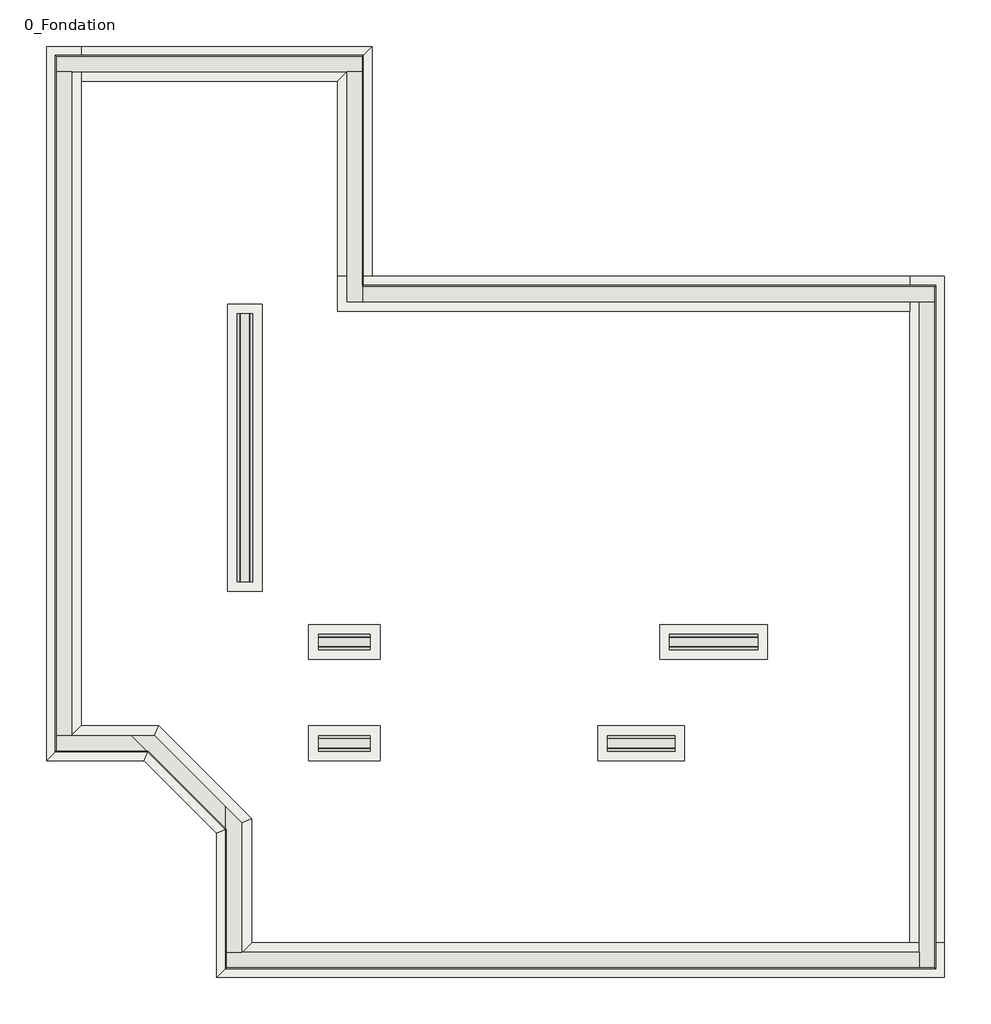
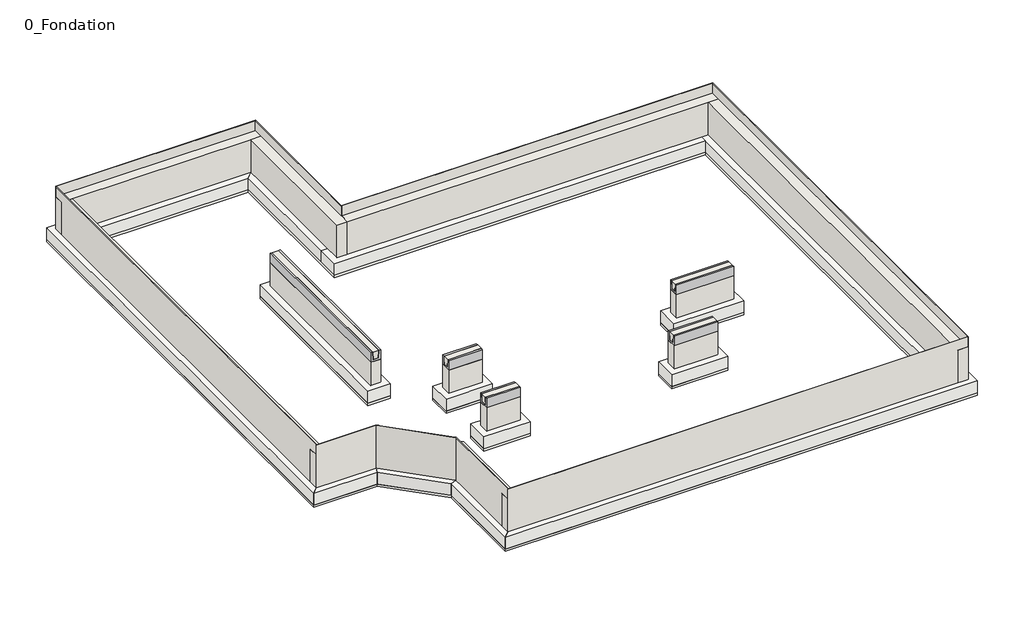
# One storey: 14 footings, 14 walls, 5 proxies, 1 slab.
"""IFC4 building model written with IfcOpenShell, lengths in millimetres."""

from ifc_helpers import new_model, si_unit, frame, origin, place, context, project, spatial, polyline, outline, extrude, faceted_brep, element, save

model = new_model("IFC4")

# Units and contexts
model_context = context("Model", 3, world=origin())
ifc_project = project(units=[si_unit("LENGTHUNIT", "METRE", prefix="MILLI")], contexts=[model_context])

# Site, building, storey
site = spatial("IfcSite", under=ifc_project)
building = spatial("IfcBuilding", under=site)
storey = spatial("IfcBuildingStorey", under=building, Name="0_Fondation", Elevation=-980.0)

# Proxies
placement = place(None, origin())
element("IfcBuildingElementProxy", 1, Name="Wall Sweeps", at=placement, inside=storey, context=model_context, shape_type="SweptSolid", body=[
    extrude(outline(polyline([(2719.9231713, -490.0), (2519.9231713, -490.0), (2519.9231713, -290.0), (2559.9231713, -290.0), (2569.9231713, -450.0), (2669.9231713, -450.0), (2679.9231713, -290.0), (2719.9231713, -290.0), (2719.9231713, -490.0)])), frame((-9951.7726031, 0.0, 0.0), z_axis=(1.0, 0.0, 0.0), x_axis=(0.0, 1.0, 0.0)), (0.0, 0.0, 1.0), 1140.0),
])
element("IfcBuildingElementProxy", 2, Name="Wall Sweeps", at=placement, inside=storey, context=model_context, shape_type="SweptSolid", body=[
    extrude(outline(polyline([(1409.9231713, -490.0), (1209.9231713, -490.0), (1209.9231713, -290.0), (1249.9231713, -290.0), (1259.9231713, -450.0), (1359.9231713, -450.0), (1369.9231713, -290.0), (1409.9231713, -290.0), (1409.9231713, -490.0)])), frame((-10751.7726031, 0.0, 0.0), z_axis=(1.0, 0.0, 0.0), x_axis=(0.0, 1.0, 0.0)), (0.0, 0.0, 1.0), 870.0),
])
element("IfcBuildingElementProxy", 3, Name="Wall Sweeps", at=placement, inside=storey, context=model_context, shape_type="SweptSolid", body=[
    extrude(outline(polyline([(1409.9231713, -490.0), (1209.9231713, -490.0), (1209.9231713, -290.0), (1249.9231713, -290.0), (1259.9231713, -450.0), (1359.9231713, -450.0), (1369.9231713, -290.0), (1409.9231713, -290.0), (1409.9231713, -490.0)])), frame((-14491.7726031, 0.0, 0.0), z_axis=(1.0, 0.0, 0.0), x_axis=(0.0, 1.0, 0.0)), (0.0, 0.0, 1.0), 670.0),
])
element("IfcBuildingElementProxy", 4, Name="Wall Sweeps", at=placement, inside=storey, context=model_context, shape_type="SweptSolid", body=[
    extrude(outline(polyline([(2719.9231713, -490.0), (2519.9231713, -490.0), (2519.9231713, -290.0), (2559.9231713, -290.0), (2569.9231713, -450.0), (2669.9231713, -450.0), (2679.9231713, -290.0), (2719.9231713, -290.0), (2719.9231713, -490.0)])), frame((-14491.7726031, 0.0, 0.0), z_axis=(1.0, 0.0, 0.0), x_axis=(0.0, 1.0, 0.0)), (0.0, 0.0, 1.0), 670.0),
])
element("IfcBuildingElementProxy", 5, Name="Wall Sweeps", at=placement, inside=storey, context=model_context, shape_type="SweptSolid", body=[
    extrude(outline(polyline([(-490.0, -15541.7726031), (-490.0, -15341.7726031), (-290.0, -15341.7726031), (-290.0, -15381.7726031), (-450.0, -15391.7726031), (-450.0, -15491.7726031), (-290.0, -15501.7726031), (-290.0, -15541.7726031), (-490.0, -15541.7726031)])), frame((0.0, 3399.9231713, 0.0), z_axis=(0.0, 1.0, 0.0), x_axis=(0.0, 0.0, 1.0)), (0.0, 0.0, 1.0), 3460.0),
])

# Footings
element("IfcFooting", 6, ObjectType="Semelle 45 x 25 refend", at=placement, inside=storey, context=model_context, shape_type="SweptSolid", body=[
    extrude(outline(polyline([(-13696.7726031, 2844.9231713), (-13696.7726031, 2394.9231713), (-14616.7726031, 2394.9231713), (-14616.7726031, 2844.9231713), (-13696.7726031, 2844.9231713)])), frame((0.0, 0.0, -1230.0), z_axis=(0.0, 0.0, 1.0), x_axis=(1.0, 0.0, 0.0)), (0.0, 0.0, 1.0), 250.0),
])
element("IfcFooting", 7, ObjectType="Semelle 45 x 25 refend", at=placement, inside=storey, context=model_context, shape_type="SweptSolid", body=[
    extrude(outline(polyline([(-13696.7726031, 1534.9231713), (-13696.7726031, 1084.9231713), (-14616.7726031, 1084.9231713), (-14616.7726031, 1534.9231713), (-13696.7726031, 1534.9231713)])), frame((0.0, 0.0, -1230.0), z_axis=(0.0, 0.0, 1.0), x_axis=(1.0, 0.0, 0.0)), (0.0, 0.0, 1.0), 250.0),
])
element("IfcFooting", 8, ObjectType="Semelle 45 x 25 refend", at=placement, inside=storey, context=model_context, shape_type="SweptSolid", body=[
    extrude(outline(polyline([(-9756.7726031, 1534.9231713), (-9756.7726031, 1084.9231713), (-10876.7726031, 1084.9231713), (-10876.7726031, 1534.9231713), (-9756.7726031, 1534.9231713)])), frame((0.0, 0.0, -1230.0), z_axis=(0.0, 0.0, 1.0), x_axis=(1.0, 0.0, 0.0)), (0.0, 0.0, 1.0), 250.0),
])
element("IfcFooting", 9, ObjectType="Semelle 45 x 25 refend", at=placement, inside=storey, context=model_context, shape_type="SweptSolid", body=[
    extrude(outline(polyline([(-8686.7726031, 2844.9231713), (-8686.7726031, 2394.9231713), (-10076.7726031, 2394.9231713), (-10076.7726031, 2844.9231713), (-8686.7726031, 2844.9231713)])), frame((0.0, 0.0, -1230.0), z_axis=(0.0, 0.0, 1.0), x_axis=(1.0, 0.0, 0.0)), (0.0, 0.0, 1.0), 250.0),
])
element("IfcFooting", 10, ObjectType="Semelle 45 x 25 refend", at=placement, inside=storey, context=model_context, shape_type="SweptSolid", body=[
    extrude(outline(polyline([(-15666.7726031, 6984.9231713), (-15216.7726031, 6984.9231713), (-15216.7726031, 3274.9231713), (-15666.7726031, 3274.9231713), (-15666.7726031, 6984.9231713)])), frame((0.0, 0.0, -1230.0), z_axis=(0.0, 0.0, 1.0), x_axis=(1.0, 0.0, 0.0)), (0.0, 0.0, 1.0), 250.0),
])
element("IfcFooting", 11, ObjectType="Semelle 45 x 25", at=placement, inside=storey, context=model_context, shape_type="Brep", body=[
    faceted_brep([(-6396.7726031, -1265.0768287, -980.0), (-6846.7726031, -1265.0768287, -980.0), (-15356.7726031, -1265.0768287, -980.0), (-15806.7726031, -1715.0768287, -980.0), (-6396.7726031, -1715.0768287, -980.0), (-6396.7726031, -1715.0768287, -1230.0), (-15806.7726031, -1715.0768287, -1230.0), (-6396.7726031, -1265.0768287, -1230.0), (-15356.7726031, -1265.0768287, -1230.0), (-6846.7726031, -1265.0768287, -1230.0)], [[[0, 1, 2, 3, 4]], [[5, 4, 3, 6]], [[7, 5, 6, 8, 9]], [[0, 7, 9, 8, 2, 1]], [[0, 4, 5, 7]], [[3, 2, 8, 6]]]),
])
element("IfcFooting", 12, ObjectType="Semelle 45 x 25", at=placement, inside=storey, context=model_context, shape_type="Brep", body=[
    faceted_brep([(-6846.7726031, 7344.9231713, -980.0), (-6846.7726031, 6894.9231713, -980.0), (-6846.7726031, -1265.0768287, -980.0), (-6396.7726031, -1265.0768287, -980.0), (-6396.7726031, 7344.9231713, -980.0), (-6396.7726031, 7344.9231713, -1230.0), (-6396.7726031, -1265.0768287, -1230.0), (-6846.7726031, -1265.0768287, -1230.0), (-6846.7726031, 6894.9231713, -1230.0), (-6846.7726031, 7344.9231713, -1230.0)], [[[0, 1, 2, 3, 4]], [[5, 4, 3, 6]], [[7, 8, 9, 5, 6]], [[9, 8, 7, 2, 1, 0]], [[3, 2, 7, 6]], [[0, 4, 5, 9]]]),
])
element("IfcFooting", 13, ObjectType="Semelle 45 x 25", at=placement, inside=storey, context=model_context, shape_type="Brep", body=[
    faceted_brep([(-14246.7726031, 6894.9231713, -980.0), (-6846.7726031, 6894.9231713, -980.0), (-6846.7726031, 7344.9231713, -980.0), (-13796.7726031, 7344.9231713, -980.0), (-14246.7726031, 7344.9231713, -980.0), (-14246.7726031, 7344.9231713, -1230.0), (-6846.7726031, 7344.9231713, -1230.0), (-13796.7726031, 7344.9231713, -1230.0), (-6846.7726031, 6894.9231713, -1230.0), (-14246.7726031, 6894.9231713, -1230.0)], [[[0, 1, 2, 3, 4]], [[5, 4, 3, 2, 6, 7]], [[8, 9, 5, 7, 6]], [[9, 8, 1, 0]], [[2, 1, 8, 6]], [[0, 4, 5, 9]]]),
])
element("IfcFooting", 14, ObjectType="Semelle 45 x 25", at=placement, inside=storey, context=model_context, shape_type="SweptSolid", body=[
    extrude(outline(polyline([(-15806.7726031, -1715.0768287), (-15806.7726031, 146.4307472), (-15356.7726031, 332.8268503), (-15356.7726031, -1265.0768287), (-15806.7726031, -1715.0768287)])), frame((0.0, 0.0, -1230.0), z_axis=(0.0, 0.0, 1.0), x_axis=(1.0, 0.0, 0.0)), (0.0, 0.0, 1.0), 250.0),
])
element("IfcFooting", 15, ObjectType="Semelle 45 x 25", at=placement, inside=storey, context=model_context, shape_type="SweptSolid", body=[
    extrude(outline(polyline([(-16558.8689241, 1534.9231713), (-15356.7726031, 332.8268503), (-15806.7726031, 146.4307472), (-16745.2650272, 1084.9231713), (-16558.8689241, 1534.9231713)])), frame((0.0, 0.0, -1230.0), z_axis=(0.0, 0.0, 1.0), x_axis=(1.0, 0.0, 0.0)), (0.0, 0.0, 1.0), 250.0),
])
element("IfcFooting", 16, ObjectType="Semelle 45 x 25", at=placement, inside=storey, context=model_context, shape_type="SweptSolid", body=[
    extrude(outline(polyline([(-17556.7726031, 1534.9231713), (-16558.8689241, 1534.9231713), (-16745.2650272, 1084.9231713), (-18006.7726031, 1084.9231713), (-17556.7726031, 1534.9231713)])), frame((0.0, 0.0, -1230.0), z_axis=(0.0, 0.0, 1.0), x_axis=(1.0, 0.0, 0.0)), (0.0, 0.0, 1.0), 250.0),
])
element("IfcFooting", 17, ObjectType="Semelle 45 x 25", at=placement, inside=storey, context=model_context, shape_type="Brep", body=[
    faceted_brep([(-18006.7726031, 10314.9231713, -980.0), (-18006.7726031, 1084.9231713, -980.0), (-17556.7726031, 1534.9231713, -980.0), (-17556.7726031, 9864.9231713, -980.0), (-17556.7726031, 10314.9231713, -980.0), (-18006.7726031, 10314.9231713, -1230.0), (-18006.7726031, 1084.9231713, -1230.0), (-17556.7726031, 10314.9231713, -1230.0), (-17556.7726031, 9864.9231713, -1230.0), (-17556.7726031, 1534.9231713, -1230.0)], [[[0, 1, 2, 3, 4]], [[1, 0, 5, 6]], [[6, 5, 7, 8, 9]], [[7, 4, 3, 2, 9, 8]], [[2, 1, 6, 9]], [[0, 4, 7, 5]]]),
])
element("IfcFooting", 18, ObjectType="Semelle 45 x 25", at=placement, inside=storey, context=model_context, shape_type="SweptSolid", body=[
    extrude(outline(polyline([(-14246.7726031, 9864.9231713), (-17556.7726031, 9864.9231713), (-17556.7726031, 10314.9231713), (-13796.7726031, 10314.9231713), (-14246.7726031, 9864.9231713)])), frame((0.0, 0.0, -1230.0), z_axis=(0.0, 0.0, 1.0), x_axis=(1.0, 0.0, 0.0)), (0.0, 0.0, 1.0), 250.0),
])
element("IfcFooting", 19, ObjectType="Semelle 45 x 25", at=placement, inside=storey, context=model_context, shape_type="SweptSolid", body=[
    extrude(outline(polyline([(-13796.7726031, 7344.9231713), (-14246.7726031, 7344.9231713), (-14246.7726031, 9864.9231713), (-13796.7726031, 10314.9231713), (-13796.7726031, 7344.9231713)])), frame((0.0, 0.0, -1230.0), z_axis=(0.0, 0.0, 1.0), x_axis=(1.0, 0.0, 0.0)), (0.0, 0.0, 1.0), 250.0),
])

# Slab
element("IfcSlab", 20, ObjectType="Béton de propreté 5cm", at=placement, inside=storey, context=model_context, shape_type="Brep", body=[
    faceted_brep([(-13796.7726031, 10314.9231713, -1280.0), (-13796.7726031, 7344.9231713, -1280.0), (-6396.7726031, 7344.9231713, -1280.0), (-6396.7726031, -1715.0768287, -1280.0), (-15806.7726031, -1715.0768287, -1280.0), (-15806.7726031, 146.4307472, -1280.0), (-16745.2650272, 1084.9231713, -1280.0), (-18006.7726031, 1084.9231713, -1280.0), (-18006.7726031, 10314.9231713, -1280.0), (-14246.7726031, 9864.9231713, -1280.0), (-17556.7726031, 9864.9231713, -1280.0), (-17556.7726031, 1534.9231713, -1280.0), (-16558.8689241, 1534.9231713, -1280.0), (-15356.7726031, 332.8268503, -1280.0), (-15356.7726031, -1265.0768287, -1280.0), (-6846.7726031, -1265.0768287, -1280.0), (-6846.7726031, 6894.9231713, -1280.0), (-14246.7726031, 6894.9231713, -1280.0), (-13796.7726031, 10314.9231713, -1230.0), (-17556.7726031, 10314.9231713, -1230.0), (-18006.7726031, 10314.9231713, -1230.0), (-18006.7726031, 1084.9231713, -1230.0), (-16745.2650272, 1084.9231713, -1230.0), (-15806.7726031, 146.4307472, -1230.0), (-15806.7726031, -1715.0768287, -1230.0), (-6396.7726031, -1715.0768287, -1230.0), (-6396.7726031, -1265.0768287, -1230.0), (-6396.7726031, 7344.9231713, -1230.0), (-6846.7726031, 7344.9231713, -1230.0), (-13796.7726031, 7344.9231713, -1230.0), (-14246.7726031, 9864.9231713, -1230.0), (-14246.7726031, 7344.9231713, -1230.0), (-14246.7726031, 6894.9231713, -1230.0), (-6846.7726031, 6894.9231713, -1230.0), (-6846.7726031, -1265.0768287, -1230.0), (-15356.7726031, -1265.0768287, -1230.0), (-15356.7726031, 332.8268503, -1230.0), (-16558.8689241, 1534.9231713, -1230.0), (-17556.7726031, 1534.9231713, -1230.0), (-17556.7726031, 9864.9231713, -1230.0)], [[[0, 1, 2, 3, 4, 5, 6, 7, 8], [9, 10, 11, 12, 13, 14, 15, 16, 17]], [[18, 19, 20, 21, 22, 23, 24, 25, 26, 27, 28, 29], [30, 31, 32, 33, 34, 35, 36, 37, 38, 39]], [[1, 0, 18, 29]], [[2, 1, 29, 28, 27]], [[3, 2, 27, 26, 25]], [[4, 3, 25, 24]], [[5, 4, 24, 23]], [[6, 5, 23, 22]], [[7, 6, 22, 21]], [[8, 7, 21, 20]], [[0, 8, 20, 19, 18]], [[10, 9, 30, 39]], [[11, 10, 39, 38]], [[12, 11, 38, 37]], [[13, 12, 37, 36]], [[14, 13, 36, 35]], [[15, 14, 35, 34]], [[16, 15, 34, 33]], [[17, 16, 33, 32]], [[9, 17, 32, 31, 30]]]),
    faceted_brep([(-15216.7726031, 6984.9231713, -1280.0), (-15216.7726031, 3274.9231713, -1280.0), (-15666.7726031, 3274.9231713, -1280.0), (-15666.7726031, 6984.9231713, -1280.0), (-15216.7726031, 6984.9231713, -1230.0), (-15666.7726031, 6984.9231713, -1230.0), (-15666.7726031, 3274.9231713, -1230.0), (-15216.7726031, 3274.9231713, -1230.0)], [[[0, 1, 2, 3]], [[4, 5, 6, 7]], [[1, 0, 4, 7]], [[2, 1, 7, 6]], [[3, 2, 6, 5]], [[0, 3, 5, 4]]]),
    faceted_brep([(-13696.7726031, 2844.9231713, -1280.0), (-13696.7726031, 2394.9231713, -1280.0), (-14616.7726031, 2394.9231713, -1280.0), (-14616.7726031, 2844.9231713, -1280.0), (-13696.7726031, 2844.9231713, -1230.0), (-14616.7726031, 2844.9231713, -1230.0), (-14616.7726031, 2394.9231713, -1230.0), (-13696.7726031, 2394.9231713, -1230.0)], [[[0, 1, 2, 3]], [[4, 5, 6, 7]], [[1, 0, 4, 7]], [[2, 1, 7, 6]], [[3, 2, 6, 5]], [[0, 3, 5, 4]]]),
    faceted_brep([(-13696.7726031, 1534.9231713, -1280.0), (-13696.7726031, 1084.9231713, -1280.0), (-14616.7726031, 1084.9231713, -1280.0), (-14616.7726031, 1534.9231713, -1280.0), (-13696.7726031, 1534.9231713, -1230.0), (-14616.7726031, 1534.9231713, -1230.0), (-14616.7726031, 1084.9231713, -1230.0), (-13696.7726031, 1084.9231713, -1230.0)], [[[0, 1, 2, 3]], [[4, 5, 6, 7]], [[1, 0, 4, 7]], [[2, 1, 7, 6]], [[3, 2, 6, 5]], [[0, 3, 5, 4]]]),
    faceted_brep([(-9756.7726031, 1534.9231713, -1280.0), (-9756.7726031, 1084.9231713, -1280.0), (-10876.7726031, 1084.9231713, -1280.0), (-10876.7726031, 1534.9231713, -1280.0), (-9756.7726031, 1534.9231713, -1230.0), (-10876.7726031, 1534.9231713, -1230.0), (-10876.7726031, 1084.9231713, -1230.0), (-9756.7726031, 1084.9231713, -1230.0)], [[[0, 1, 2, 3]], [[4, 5, 6, 7]], [[1, 0, 4, 7]], [[2, 1, 7, 6]], [[3, 2, 6, 5]], [[0, 3, 5, 4]]]),
    faceted_brep([(-8686.7726031, 2844.9231713, -1280.0), (-8686.7726031, 2394.9231713, -1280.0), (-10076.7726031, 2394.9231713, -1280.0), (-10076.7726031, 2844.9231713, -1280.0), (-8686.7726031, 2844.9231713, -1230.0), (-10076.7726031, 2844.9231713, -1230.0), (-10076.7726031, 2394.9231713, -1230.0), (-8686.7726031, 2394.9231713, -1230.0)], [[[0, 1, 2, 3]], [[4, 5, 6, 7]], [[1, 0, 4, 7]], [[2, 1, 7, 6]], [[3, 2, 6, 5]], [[0, 3, 5, 4]]]),
])

# Walls
element("IfcWall", 21, ObjectType="Mur de soubassement", at=placement, inside=storey, context=model_context, shape_type="Brep", body=[
    faceted_brep([(-17891.7726031, 9989.9231713, -980.0), (-17681.7726031, 9989.9231713, -980.0), (-14121.7726031, 9989.9231713, -980.0), (-13911.7726031, 9989.9231713, -980.0), (-13911.7726031, 9989.9231713, -290.0), (-14121.7726031, 9989.9231713, -290.0), (-17681.7726031, 9989.9231713, -290.0), (-17891.7726031, 9989.9231713, -290.0), (-17891.7726031, 10199.9231713, -980.0), (-17891.7726031, 10199.9231713, -80.0), (-13911.7726031, 10199.9231713, -80.0), (-13911.7726031, 10199.9231713, -980.0), (-13911.7726031, 10189.9231713, -290.0), (-13921.7726031, 10189.9231713, -290.0), (-17881.7726031, 10189.9231713, -290.0), (-17891.7726031, 10189.9231713, -290.0), (-13911.7726031, 10189.9231713, -80.0), (-13921.7726031, 10189.9231713, -80.0), (-17881.7726031, 10189.9231713, -80.0), (-17891.7726031, 10189.9231713, -80.0), (-17891.7726031, 10189.9231713, -980.0), (-13911.7726031, 10189.9231713, -980.0)], [[[0, 1, 2, 3, 4, 5, 6, 7]], [[8, 9, 10, 11]], [[7, 6, 5, 4, 12, 13, 14, 15]], [[15, 14, 13, 12, 16, 17, 18, 19]], [[3, 2, 1, 0, 20, 21]], [[4, 3, 21, 11, 10, 16, 12]], [[16, 10, 9, 19, 18, 17]], [[0, 7, 15, 19, 9, 8, 20]], [[20, 8, 11, 21]]]),
])
element("IfcWall", 22, ObjectType="Mur de soubassement", at=placement, inside=storey, context=model_context, shape_type="Brep", body=[
    faceted_brep([(-14121.7726031, 9989.9231713, -980.0), (-14121.7726031, 7019.9231713, -980.0), (-14121.7726031, 7019.9231713, -290.0), (-14121.7726031, 9989.9231713, -290.0), (-13911.7726031, 7019.9231713, -980.0), (-13911.7726031, 7229.9231713, -980.0), (-13911.7726031, 9989.9231713, -980.0), (-13911.7726031, 9989.9231713, -290.0), (-13911.7726031, 10189.9231713, -290.0), (-13911.7726031, 10189.9231713, -80.0), (-13911.7726031, 7229.9231713, -80.0), (-13911.7726031, 7219.9231713, -80.0), (-13911.7726031, 7219.9231713, -290.0), (-13911.7726031, 7019.9231713, -290.0), (-13921.7726031, 7219.9231713, -290.0), (-13921.7726031, 9989.9231713, -290.0), (-13921.7726031, 7219.9231713, -80.0), (-13921.7726031, 10189.9231713, -80.0), (-13921.7726031, 10189.9231713, -290.0), (-13921.7726031, 9989.9231713, -980.0), (-13921.7726031, 7019.9231713, -980.0)], [[[0, 1, 2, 3]], [[4, 5, 6, 7, 8, 9, 10, 11, 12, 13]], [[3, 2, 13, 12, 14, 15]], [[15, 14, 16, 17, 18]], [[1, 0, 19, 20]], [[0, 3, 15, 7, 6, 19]], [[19, 6, 5, 4, 20]], [[2, 1, 20, 4, 13]], [[11, 10, 9, 17, 16]], [[14, 12, 11, 16]], [[8, 7, 15, 18]], [[17, 9, 8, 18]]]),
])
element("IfcWall", 23, ObjectType="Mur de soubassement", at=placement, inside=storey, context=model_context, shape_type="Brep", body=[
    faceted_brep([(-13911.7726031, 7019.9231713, -980.0), (-6721.7726031, 7019.9231713, -980.0), (-6511.7726031, 7019.9231713, -980.0), (-6511.7726031, 7019.9231713, -290.0), (-6721.7726031, 7019.9231713, -290.0), (-13911.7726031, 7019.9231713, -290.0), (-13911.7726031, 7229.9231713, -980.0), (-13911.7726031, 7229.9231713, -80.0), (-6511.7726031, 7229.9231713, -80.0), (-6511.7726031, 7229.9231713, -980.0), (-6511.7726031, 7219.9231713, -290.0), (-6521.7726031, 7219.9231713, -290.0), (-13911.7726031, 7219.9231713, -290.0), (-6511.7726031, 7219.9231713, -80.0), (-6521.7726031, 7219.9231713, -80.0), (-13911.7726031, 7219.9231713, -80.0), (-13911.7726031, 7219.9231713, -980.0), (-6511.7726031, 7219.9231713, -980.0)], [[[0, 1, 2, 3, 4, 5]], [[6, 7, 8, 9]], [[5, 4, 3, 10, 11, 12]], [[12, 11, 10, 13, 14, 15]], [[2, 1, 0, 16, 17]], [[0, 5, 12, 15, 7, 6, 16]], [[16, 6, 9, 17]], [[3, 2, 17, 9, 8, 13, 10]], [[13, 8, 7, 15, 14]]]),
])
element("IfcWall", 24, ObjectType="Mur de soubassement", at=placement, inside=storey, context=model_context, shape_type="Brep", body=[
    faceted_brep([(-6721.7726031, 7019.9231713, -980.0), (-6721.7726031, -1390.0768287, -980.0), (-6721.7726031, -1600.0768287, -980.0), (-6721.7726031, -1600.0768287, -290.0), (-6721.7726031, -1390.0768287, -290.0), (-6721.7726031, 7019.9231713, -290.0), (-6511.7726031, -1600.0768287, -980.0), (-6511.7726031, 7019.9231713, -980.0), (-6511.7726031, 7019.9231713, -290.0), (-6511.7726031, 7219.9231713, -290.0), (-6511.7726031, 7219.9231713, -80.0), (-6511.7726031, -1600.0768287, -80.0), (-6521.7726031, -1600.0768287, -290.0), (-6521.7726031, -1590.0768287, -290.0), (-6521.7726031, 7019.9231713, -290.0), (-6521.7726031, -1600.0768287, -80.0), (-6521.7726031, -1590.0768287, -80.0), (-6521.7726031, 7219.9231713, -80.0), (-6521.7726031, 7219.9231713, -290.0), (-6521.7726031, 7019.9231713, -980.0), (-6521.7726031, -1600.0768287, -980.0)], [[[0, 1, 2, 3, 4, 5]], [[6, 7, 8, 9, 10, 11]], [[5, 4, 3, 12, 13, 14]], [[14, 13, 12, 15, 16, 17, 18]], [[2, 1, 0, 19, 20]], [[0, 5, 14, 8, 7, 19]], [[19, 7, 6, 20]], [[3, 2, 20, 6, 11, 15, 12]], [[17, 16, 15, 11, 10]], [[9, 8, 14, 18]], [[17, 10, 9, 18]]]),
])
element("IfcWall", 25, ObjectType="Mur de soubassement", at=placement, inside=storey, context=model_context, shape_type="Brep", body=[
    faceted_brep([(-6721.7726031, -1390.0768287, -980.0), (-15481.7726031, -1390.0768287, -980.0), (-15691.7726031, -1390.0768287, -980.0), (-15691.7726031, -1390.0768287, -290.0), (-15481.7726031, -1390.0768287, -290.0), (-6721.7726031, -1390.0768287, -290.0), (-15691.7726031, -1600.0768287, -980.0), (-6721.7726031, -1600.0768287, -980.0), (-6721.7726031, -1600.0768287, -290.0), (-6521.7726031, -1600.0768287, -290.0), (-6521.7726031, -1600.0768287, -80.0), (-15691.7726031, -1600.0768287, -80.0), (-15691.7726031, -1590.0768287, -290.0), (-15681.7726031, -1590.0768287, -290.0), (-6721.7726031, -1590.0768287, -290.0), (-15691.7726031, -1590.0768287, -80.0), (-15681.7726031, -1590.0768287, -80.0), (-6521.7726031, -1590.0768287, -80.0), (-6521.7726031, -1590.0768287, -290.0), (-6721.7726031, -1590.0768287, -980.0), (-15691.7726031, -1590.0768287, -980.0)], [[[0, 1, 2, 3, 4, 5]], [[6, 7, 8, 9, 10, 11]], [[5, 4, 3, 12, 13, 14]], [[14, 13, 12, 15, 16, 17, 18]], [[2, 1, 0, 19, 20]], [[0, 5, 14, 8, 7, 19]], [[19, 7, 6, 20]], [[3, 2, 20, 6, 11, 15, 12]], [[17, 16, 15, 11, 10]], [[9, 8, 14, 18]], [[17, 10, 9, 18]]]),
])
element("IfcWall", 26, ObjectType="Mur de soubassement", at=placement, inside=storey, context=model_context, shape_type="Brep", body=[
    faceted_brep([(-15481.7726031, -1390.0768287, -980.0), (-15481.7726031, 281.050155, -980.0), (-15481.7726031, 281.050155, -290.0), (-15481.7726031, -1390.0768287, -290.0), (-15691.7726031, 491.050155, -980.0), (-15691.7726031, 194.0653069, -980.0), (-15691.7726031, -1390.0768287, -980.0), (-15691.7726031, -1390.0768287, -290.0), (-15691.7726031, -1590.0768287, -290.0), (-15691.7726031, -1590.0768287, -80.0), (-15691.7726031, 194.0653069, -80.0), (-15691.7726031, 208.2074425, -80.0), (-15691.7726031, 208.2074425, -290.0), (-15691.7726031, 491.050155, -290.0), (-15681.7726031, 198.2074425, -290.0), (-15681.7726031, -1390.0768287, -290.0), (-15681.7726031, 198.2074425, -80.0), (-15681.7726031, -1590.0768287, -80.0), (-15681.7726031, -1590.0768287, -290.0), (-15681.7726031, -1390.0768287, -980.0), (-15681.7726031, 481.050155, -980.0)], [[[0, 1, 2, 3]], [[4, 5, 6, 7, 8, 9, 10, 11, 12, 13]], [[3, 2, 13, 12, 14, 15]], [[15, 14, 16, 17, 18]], [[1, 0, 19, 20]], [[0, 3, 15, 7, 6, 19]], [[19, 6, 5, 4, 20]], [[2, 1, 20, 4, 13]], [[11, 10, 9, 17, 16]], [[14, 12, 11, 16]], [[8, 7, 15, 18]], [[17, 9, 8, 18]]]),
])
element("IfcWall", 27, ObjectType="Mur de soubassement", at=placement, inside=storey, context=model_context, shape_type="Brep", body=[
    faceted_brep([(-15691.7726031, 491.050155, -980.0), (-16610.6456194, 1409.9231713, -980.0), (-16610.6456194, 1409.9231713, -290.0), (-15691.7726031, 491.050155, -290.0), (-16907.6304675, 1409.9231713, -980.0), (-16697.6304675, 1199.9231713, -980.0), (-15691.7726031, 194.0653069, -980.0), (-15691.7726031, 194.0653069, -80.0), (-16697.6304675, 1199.9231713, -80.0), (-16707.6304675, 1209.9231713, -80.0), (-16707.6304675, 1209.9231713, -290.0), (-16907.6304675, 1409.9231713, -290.0), (-16693.4883319, 1209.9231713, -290.0), (-15691.7726031, 208.2074425, -290.0), (-15691.7726031, 208.2074425, -80.0), (-16693.4883319, 1209.9231713, -80.0), (-15691.7726031, 208.2074425, -980.0), (-16893.4883319, 1409.9231713, -980.0)], [[[0, 1, 2, 3]], [[4, 5, 6, 7, 8, 9, 10, 11]], [[3, 2, 11, 10, 12, 13]], [[14, 13, 12, 15]], [[1, 0, 16, 17]], [[0, 3, 13, 14, 7, 6, 16]], [[16, 6, 5, 4, 17]], [[11, 2, 1, 17, 4]], [[7, 14, 15, 9, 8]], [[12, 10, 9, 15]]]),
])
element("IfcWall", 28, ObjectType="Mur de soubassement", at=placement, inside=storey, context=model_context, shape_type="Brep", body=[
    faceted_brep([(-16907.6304675, 1409.9231713, -980.0), (-17681.7726031, 1409.9231713, -980.0), (-17891.7726031, 1409.9231713, -980.0), (-17891.7726031, 1409.9231713, -290.0), (-17681.7726031, 1409.9231713, -290.0), (-16907.6304675, 1409.9231713, -290.0), (-16697.6304675, 1199.9231713, -980.0), (-16697.6304675, 1199.9231713, -80.0), (-17891.7726031, 1199.9231713, -80.0), (-17891.7726031, 1199.9231713, -980.0), (-17891.7726031, 1209.9231713, -290.0), (-17881.7726031, 1209.9231713, -290.0), (-16707.6304675, 1209.9231713, -290.0), (-17891.7726031, 1209.9231713, -80.0), (-17881.7726031, 1209.9231713, -80.0), (-16707.6304675, 1209.9231713, -80.0), (-16707.6304675, 1209.9231713, -980.0), (-17891.7726031, 1209.9231713, -980.0)], [[[0, 1, 2, 3, 4, 5]], [[6, 7, 8, 9]], [[5, 4, 3, 10, 11, 12]], [[12, 11, 10, 13, 14, 15]], [[2, 1, 0, 16, 17]], [[0, 5, 12, 15, 7, 6, 16]], [[16, 6, 9, 17]], [[3, 2, 17, 9, 8, 13, 10]], [[13, 8, 7, 15, 14]]]),
])
element("IfcWall", 29, ObjectType="Mur de soubassement", at=placement, inside=storey, context=model_context, shape_type="Brep", body=[
    faceted_brep([(-17681.7726031, 1409.9231713, -980.0), (-17681.7726031, 9989.9231713, -980.0), (-17681.7726031, 9989.9231713, -290.0), (-17681.7726031, 1409.9231713, -290.0), (-17891.7726031, 9989.9231713, -980.0), (-17891.7726031, 1409.9231713, -980.0), (-17891.7726031, 1409.9231713, -290.0), (-17891.7726031, 1209.9231713, -290.0), (-17891.7726031, 1209.9231713, -80.0), (-17891.7726031, 10189.9231713, -80.0), (-17891.7726031, 10189.9231713, -290.0), (-17891.7726031, 9989.9231713, -290.0), (-17881.7726031, 9989.9231713, -290.0), (-17881.7726031, 1409.9231713, -290.0), (-17881.7726031, 10189.9231713, -290.0), (-17881.7726031, 10189.9231713, -80.0), (-17881.7726031, 1209.9231713, -80.0), (-17881.7726031, 1209.9231713, -290.0), (-17881.7726031, 1409.9231713, -980.0), (-17881.7726031, 9989.9231713, -980.0)], [[[0, 1, 2, 3]], [[4, 5, 6, 7, 8, 9, 10, 11]], [[3, 2, 12, 13]], [[13, 12, 14, 15, 16, 17]], [[1, 0, 18, 19]], [[2, 1, 19, 4, 11, 12]], [[0, 3, 13, 6, 5, 18]], [[16, 15, 9, 8]], [[18, 5, 4, 19]], [[14, 12, 11, 10]], [[9, 15, 14, 10]], [[7, 6, 13, 17]], [[16, 8, 7, 17]]]),
])
element("IfcWall", 30, ObjectType="Mur de soubassement refend", at=placement, inside=storey, context=model_context, shape_type="SweptSolid", body=[
    extrude(outline(polyline([(-9951.7726031, 2719.9231713), (-8811.7726031, 2719.9231713), (-8811.7726031, 2519.9231713), (-9951.7726031, 2519.9231713), (-9951.7726031, 2719.9231713)])), frame((0.0, 0.0, -980.0), z_axis=(0.0, 0.0, 1.0), x_axis=(1.0, 0.0, 0.0)), (0.0, 0.0, 1.0), 490.0),
    extrude(outline(polyline([(2559.9231713, -290.0), (2679.9231713, -290.0), (2669.9231713, -450.0), (2569.9231713, -450.0), (2559.9231713, -290.0)])), frame((-9951.7726031, 0.0, 0.0), z_axis=(1.0, 0.0, 0.0), x_axis=(0.0, 1.0, 0.0)), (0.0, 0.0, 1.0), 1140.0),
])
element("IfcWall", 31, ObjectType="Mur de soubassement refend", at=placement, inside=storey, context=model_context, shape_type="SweptSolid", body=[
    extrude(outline(polyline([(-10751.7726031, 1409.9231713), (-9881.7726031, 1409.9231713), (-9881.7726031, 1209.9231713), (-10751.7726031, 1209.9231713), (-10751.7726031, 1409.9231713)])), frame((0.0, 0.0, -980.0), z_axis=(0.0, 0.0, 1.0), x_axis=(1.0, 0.0, 0.0)), (0.0, 0.0, 1.0), 490.0),
    extrude(outline(polyline([(1249.9231713, -290.0), (1369.9231713, -290.0), (1359.9231713, -450.0), (1259.9231713, -450.0), (1249.9231713, -290.0)])), frame((-10751.7726031, 0.0, 0.0), z_axis=(1.0, 0.0, 0.0), x_axis=(0.0, 1.0, 0.0)), (0.0, 0.0, 1.0), 870.0),
])
element("IfcWall", 32, ObjectType="Mur de soubassement refend", at=placement, inside=storey, context=model_context, shape_type="SweptSolid", body=[
    extrude(outline(polyline([(-14491.7726031, 1409.9231713), (-13821.7726031, 1409.9231713), (-13821.7726031, 1209.9231713), (-14491.7726031, 1209.9231713), (-14491.7726031, 1409.9231713)])), frame((0.0, 0.0, -980.0), z_axis=(0.0, 0.0, 1.0), x_axis=(1.0, 0.0, 0.0)), (0.0, 0.0, 1.0), 490.0),
    extrude(outline(polyline([(1249.9231713, -290.0), (1369.9231713, -290.0), (1359.9231713, -450.0), (1259.9231713, -450.0), (1249.9231713, -290.0)])), frame((-14491.7726031, 0.0, 0.0), z_axis=(1.0, 0.0, 0.0), x_axis=(0.0, 1.0, 0.0)), (0.0, 0.0, 1.0), 670.0),
])
element("IfcWall", 33, ObjectType="Mur de soubassement refend", at=placement, inside=storey, context=model_context, shape_type="SweptSolid", body=[
    extrude(outline(polyline([(-14491.7726031, 2719.9231713), (-13821.7726031, 2719.9231713), (-13821.7726031, 2519.9231713), (-14491.7726031, 2519.9231713), (-14491.7726031, 2719.9231713)])), frame((0.0, 0.0, -980.0), z_axis=(0.0, 0.0, 1.0), x_axis=(1.0, 0.0, 0.0)), (0.0, 0.0, 1.0), 490.0),
    extrude(outline(polyline([(2559.9231713, -290.0), (2679.9231713, -290.0), (2669.9231713, -450.0), (2569.9231713, -450.0), (2559.9231713, -290.0)])), frame((-14491.7726031, 0.0, 0.0), z_axis=(1.0, 0.0, 0.0), x_axis=(0.0, 1.0, 0.0)), (0.0, 0.0, 1.0), 670.0),
])
element("IfcWall", 34, ObjectType="Mur de soubassement refend", at=placement, inside=storey, context=model_context, shape_type="SweptSolid", body=[
    extrude(outline(polyline([(-15541.7726031, 3399.9231713), (-15541.7726031, 6859.9231713), (-15341.7726031, 6859.9231713), (-15341.7726031, 3399.9231713), (-15541.7726031, 3399.9231713)])), frame((0.0, 0.0, -980.0), z_axis=(0.0, 0.0, 1.0), x_axis=(1.0, 0.0, 0.0)), (0.0, 0.0, 1.0), 490.0),
    extrude(outline(polyline([(-290.0, -15381.7726031), (-290.0, -15501.7726031), (-450.0, -15491.7726031), (-450.0, -15391.7726031), (-290.0, -15381.7726031)])), frame((0.0, 3399.9231713, 0.0), z_axis=(0.0, 1.0, 0.0), x_axis=(0.0, 0.0, 1.0)), (0.0, 0.0, 1.0), 3460.0),
])

save(model, "model.ifc")
